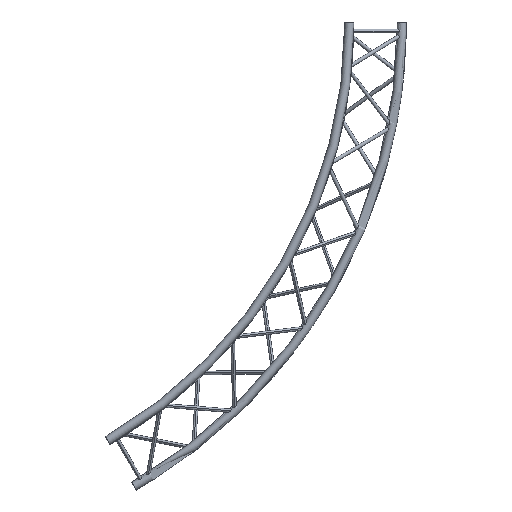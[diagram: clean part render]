
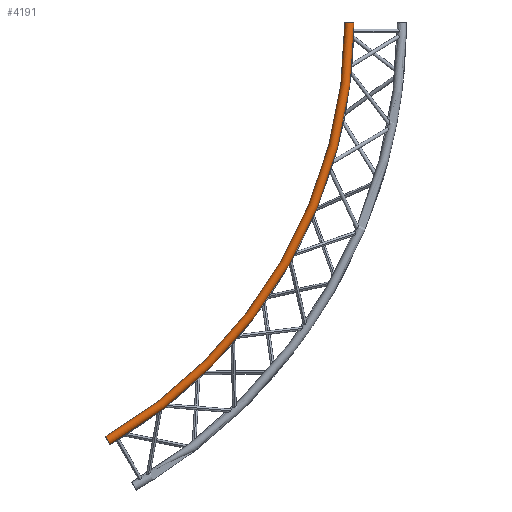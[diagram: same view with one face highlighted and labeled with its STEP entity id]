
A CAD part, front view. The second image highlights one B-rep face of the part: STEP entity #4191.
In plain terms, the highlighted toroidal (fillet/blend) face has major radius 2683.15 mm and minor radius 25 mm.
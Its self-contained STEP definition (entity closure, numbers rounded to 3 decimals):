
#4191 = ADVANCED_FACE ( 'NONE', ( #5476 ), #5477, .T. ) ;
#4198 = ORIENTED_EDGE ( 'NONE', *, *, #4251, .F. ) ;
#4199 = VERTEX_POINT ( 'NONE', #5093 ) ;
#4200 = VERTEX_POINT ( 'NONE', #5088 ) ;
#4204 = VERTEX_POINT ( 'NONE', #5100 ) ;
#4208 = EDGE_LOOP ( 'NONE', ( #4240, #4230, #4235, #4198 ) ) ;
#4223 = EDGE_CURVE ( 'NONE', #4241, #4204, #5636, .T. ) ;
#4230 = ORIENTED_EDGE ( 'NONE', *, *, #4242, .T. ) ;
#4231 = EDGE_CURVE ( 'NONE', #4200, #4199, #5644, .T. ) ;
#4235 = ORIENTED_EDGE ( 'NONE', *, *, #4231, .F. ) ;
#4240 = ORIENTED_EDGE ( 'NONE', *, *, #4223, .T. ) ;
#4241 = VERTEX_POINT ( 'NONE', #5668 ) ;
#4242 = EDGE_CURVE ( 'NONE', #4204, #4199, #5656, .T. ) ;
#4251 = EDGE_CURVE ( 'NONE', #4241, #4200, #5799, .T. ) ;
#5088 = CARTESIAN_POINT ( 'NONE',  ( 2658.149, -168.5, 0. ) ) ;
#5093 = CARTESIAN_POINT ( 'NONE',  ( 2708.149, -168.5, 0. ) ) ;
#5100 = CARTESIAN_POINT ( 'NONE',  ( 1354.075, -168.5, -2345.326 ) ) ;
#5476 = FACE_OUTER_BOUND ( 'NONE', #4208, .T. ) ;
#5477 = TOROIDAL_SURFACE ( 'NONE', #5478, 2683.149, 25. ) ;
#5478 = AXIS2_PLACEMENT_3D ( 'NONE', #5494, #5483, #5495 ) ;
#5483 = DIRECTION ( 'NONE',  ( 0., -1., 0. ) ) ;
#5494 = CARTESIAN_POINT ( 'NONE',  ( 0., -168.5, 0. ) ) ;
#5495 = DIRECTION ( 'NONE',  ( 0., 0., -1. ) ) ;
#5629 = CARTESIAN_POINT ( 'NONE',  ( 1341.575, -168.5, -2323.676 ) ) ;
#5631 = DIRECTION ( 'NONE',  ( 0., 0., -1. ) ) ;
#5632 = DIRECTION ( 'NONE',  ( 0., -1., 0. ) ) ;
#5633 = DIRECTION ( 'NONE',  ( 0.5, 0., -0.866 ) ) ;
#5634 = DIRECTION ( 'NONE',  ( 0.866, 0., 0.5 ) ) ;
#5635 = AXIS2_PLACEMENT_3D ( 'NONE', #5629, #5634, #5633 ) ;
#5636 = CIRCLE ( 'NONE', #5635, 25. ) ;
#5643 = DIRECTION ( 'NONE',  ( 1., 0., 0. ) ) ;
#5644 = CIRCLE ( 'NONE', #5652, 25. ) ;
#5652 = AXIS2_PLACEMENT_3D ( 'NONE', #5654, #5653, #5643 ) ;
#5653 = DIRECTION ( 'NONE',  ( 0., 0., 1. ) ) ;
#5654 = CARTESIAN_POINT ( 'NONE',  ( 2683.149, -168.5, 0. ) ) ;
#5656 = CIRCLE ( 'NONE', #5663, 2708.149 ) ;
#5658 = DIRECTION ( 'NONE',  ( 0., 0., -1. ) ) ;
#5659 = DIRECTION ( 'NONE',  ( 0., -1., 0. ) ) ;
#5662 = CARTESIAN_POINT ( 'NONE',  ( 0., -168.5, 0. ) ) ;
#5663 = AXIS2_PLACEMENT_3D ( 'NONE', #5662, #5659, #5658 ) ;
#5668 = CARTESIAN_POINT ( 'NONE',  ( 1329.075, -168.5, -2302.025 ) ) ;
#5798 = CARTESIAN_POINT ( 'NONE',  ( 0., -168.5, 0. ) ) ;
#5799 = CIRCLE ( 'NONE', #5801, 2658.149 ) ;
#5801 = AXIS2_PLACEMENT_3D ( 'NONE', #5798, #5632, #5631 ) ;
